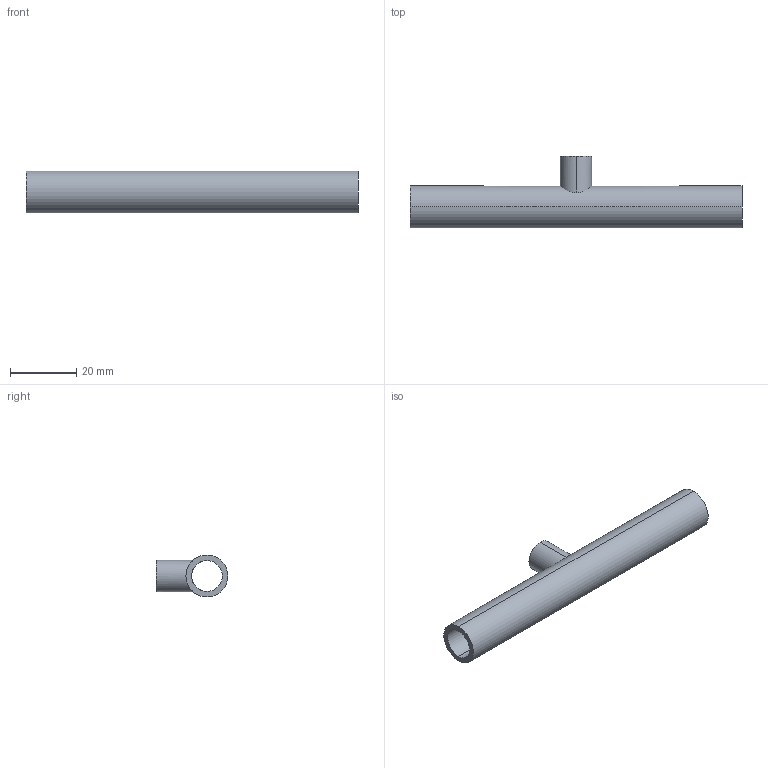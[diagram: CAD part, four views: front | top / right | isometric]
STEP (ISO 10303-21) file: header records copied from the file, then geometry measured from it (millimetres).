
FILE_DESCRIPTION (( 'STEP AP214' ), '1' );
FILE_NAME ('TEG7RS6L.5x.375-...STEP', '2016-05-24T07:55:14', ( 'eran' ), ( '' ), 'SwSTEP 2.0', 'SolidWorks 2016', '' );
FILE_SCHEMA (( 'AUTOMOTIVE_DESIGN' ));
Length unit declared in the file: millimetre
Products named in the file (1): TEG7RS6L.5x.375-..
Bounding box: 100.6 x 21.75 x 12.7 mm (x, y, z)
Volume: 5916.8 mm3; surface area: 7577.7 mm2
Topology: 1 solids, 1 shells, 11 faces, 24 edges, 16 vertices
Faces by surface type: cylinder 8, plane 3
Entity records: 496 total; most frequent: CARTESIAN_POINT 204, DIRECTION 56, ORIENTED_EDGE 48, AXIS2_PLACEMENT_3D 24, EDGE_CURVE 24, VERTEX_POINT 16, EDGE_LOOP 16, CIRCLE 12
